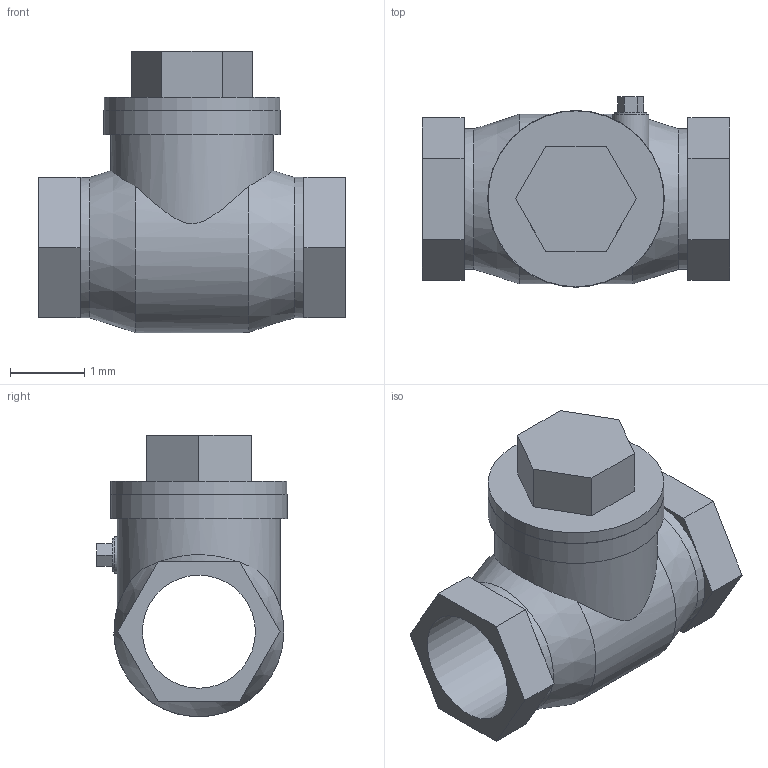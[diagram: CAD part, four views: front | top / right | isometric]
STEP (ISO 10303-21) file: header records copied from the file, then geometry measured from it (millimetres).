
FILE_DESCRIPTION(('Open CASCADE Model'),'2;1');
FILE_NAME('Open CASCADE Shape Model','2021-10-25T14:19:37',('Author'),( 'Open CASCADE'),'Open CASCADE STEP processor 7.3','Open CASCADE 7.3' ,'Unknown');
FILE_SCHEMA(('AUTOMOTIVE_DESIGN { 1 0 10303 214 1 1 1 1 }'));
Length unit declared in the file: millimetre
Products named in the file (1): Open CASCADE STEP translator 7.3 1
Bounding box: 4.13 x 2.56 x 3.78 mm (x, y, z)
Volume: 12.6 mm3; surface area: 64.4 mm2
Topology: 1 solids, 1 shells, 56 faces, 135 edges, 86 vertices
Faces by surface type: plane 45, cylinder 9, cone 2
Full cylindrical faces by diameter (mm): 0.435 x1, 0.49 x1, 1.52 x1, 1.89 x2, 2.192 x1, 2.365 x1, 2.375 x1
Entity records: 4224 total; most frequent: CARTESIAN_POINT 1529, DIRECTION 490, LINE 309, VECTOR 309, ORIENTED_EDGE 270, PCURVE 270, DEFINITIONAL_REPRESENTATION 270, EDGE_CURVE 135
